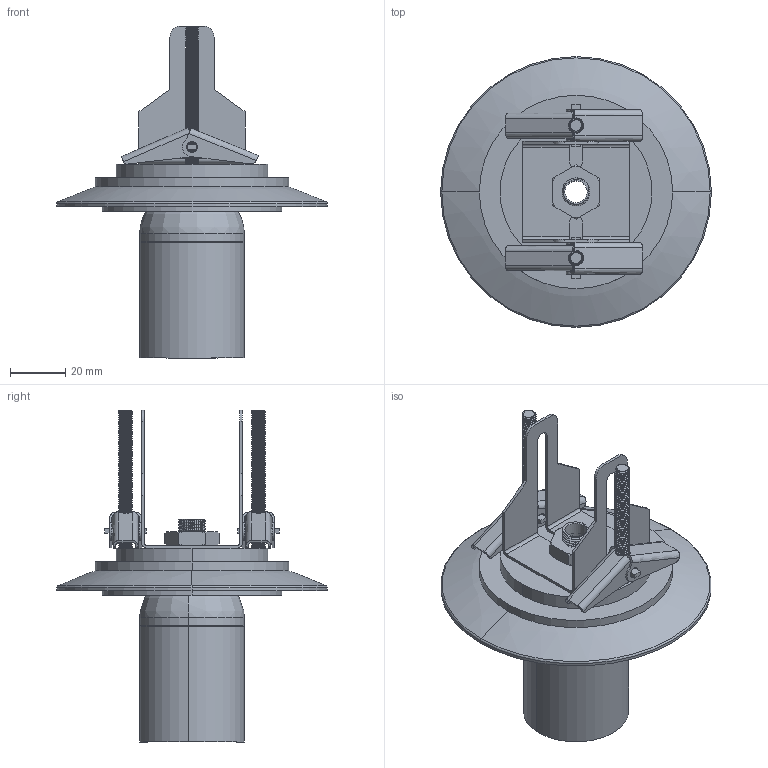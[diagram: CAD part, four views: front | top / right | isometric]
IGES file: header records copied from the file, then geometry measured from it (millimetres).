
Start section: SolidWorks IGES file using analytic representation for surfaces
Global section: file name: \\192.168.111.232\grupos\DISENYO\DESARROLLO DE PRODUCTO\PARMA-3946\PARMA - E3946082 - BASE EMPOTRABLE\PARMA - E3946082.IGS; native system: SolidWorks 2025; preprocessor: SolidWorks 2025; author: o.domenech; date: 260213.133206; units: millimetre
Bounding box: 98 x 98 x 120.14 mm (x, y, z)
Volume: 89786.2 mm3; surface area: 59177.2 mm2
Topology: 12 solids, 12 shells, 701 faces, 8549 edges, 9839 vertices
Faces by surface type: revolution 540, plane 148, bspline 13
